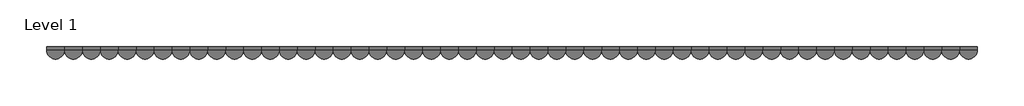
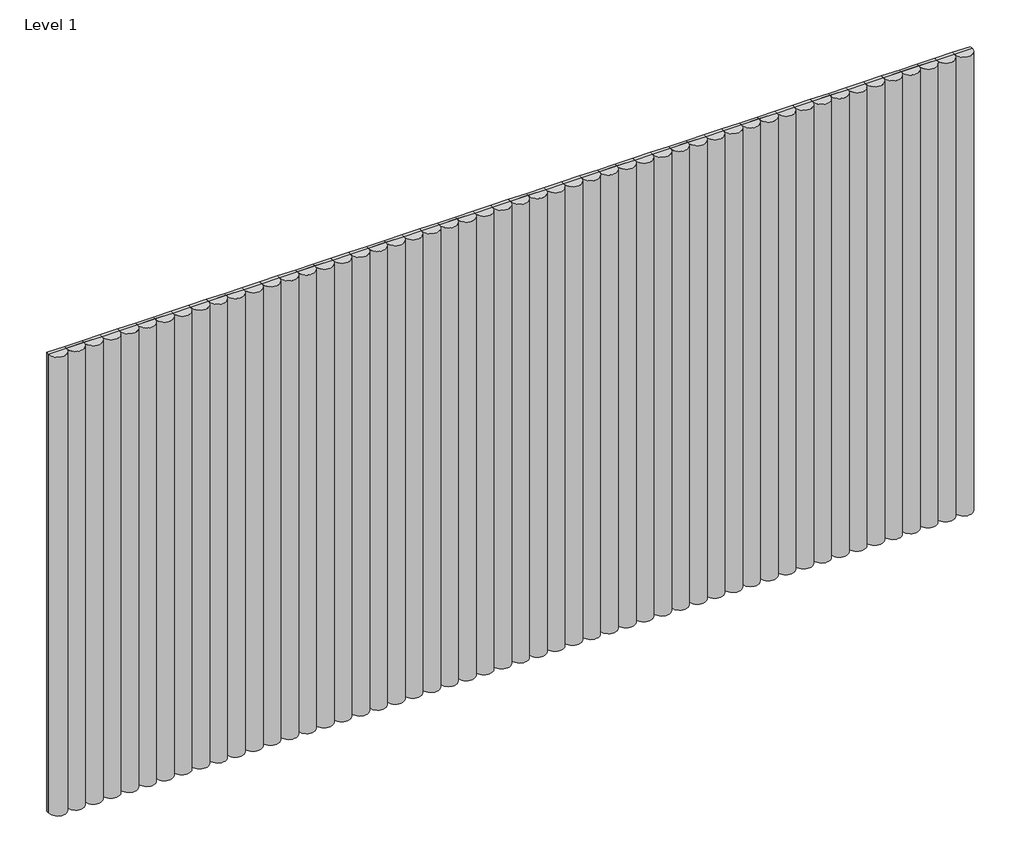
# One storey: 52 proxies.
"""IFC4 building model written with IfcOpenShell, lengths in millimetres."""

from ifc_helpers import new_model, si_unit, origin, place, context, project, spatial, transform, mapped, element, save
from components import specialty_equipment_105ff39a

model = new_model("IFC4")

# Units and contexts
model_context = context("Model", 3, world=origin())
ifc_project = project(units=[si_unit("LENGTHUNIT", "METRE", prefix="MILLI")], contexts=[model_context])

# Site, building, storey
site = spatial("IfcSite", under=ifc_project)
building = spatial("IfcBuilding", under=site)
storey = spatial("IfcBuildingStorey", under=building, Name="Level 1", Elevation=0.0)

# Proxies
placement = place(None, origin())
specialty_equipment_shape = specialty_equipment_105ff39a(model_context)
element("IfcBuildingElementProxy", 1, Name="Spinneybeck_ARO Plank 1 : A - 4 1/4 in (10.8 cm)", ObjectType="Spinneybeck_ARO Plank 1 : A - 4 1/4 in (10.8 cm)", at=placement, inside=storey, context=model_context, shape_type="MappedRepresentation", body=[
    mapped(specialty_equipment_shape, transform((-18900.5881386, 525.5178844, -8.8724664), x_axis=(1.0, 0.0, 0.0), y_axis=(0.0, 0.0, 1.0), z_axis=(0.0, -1.0, 0.0))),
])
element("IfcBuildingElementProxy", 2, Name="Spinneybeck_ARO Plank 1 : A - 4 1/4 in (10.8 cm)", ObjectType="Spinneybeck_ARO Plank 1 : A - 4 1/4 in (10.8 cm)", at=placement, inside=storey, context=model_context, shape_type="MappedRepresentation", body=[
    mapped(specialty_equipment_shape, transform((-18792.6381386, 525.5178844, -8.8724664), x_axis=(1.0, 0.0, 0.0), y_axis=(0.0, 0.0, 1.0), z_axis=(0.0, -1.0, 0.0))),
])
element("IfcBuildingElementProxy", 3, Name="Spinneybeck_ARO Plank 1 : A - 4 1/4 in (10.8 cm)", ObjectType="Spinneybeck_ARO Plank 1 : A - 4 1/4 in (10.8 cm)", at=placement, inside=storey, context=model_context, shape_type="MappedRepresentation", body=[
    mapped(specialty_equipment_shape, transform((-18684.6881386, 525.5178844, -8.8724664), x_axis=(1.0, 0.0, 0.0), y_axis=(0.0, 0.0, 1.0), z_axis=(0.0, -1.0, 0.0))),
])
element("IfcBuildingElementProxy", 4, Name="Spinneybeck_ARO Plank 1 : A - 4 1/4 in (10.8 cm)", ObjectType="Spinneybeck_ARO Plank 1 : A - 4 1/4 in (10.8 cm)", at=placement, inside=storey, context=model_context, shape_type="MappedRepresentation", body=[
    mapped(specialty_equipment_shape, transform((-18576.7381386, 525.5178844, -8.8724664), x_axis=(1.0, 0.0, 0.0), y_axis=(0.0, 0.0, 1.0), z_axis=(0.0, -1.0, 0.0))),
])
element("IfcBuildingElementProxy", 5, Name="Spinneybeck_ARO Plank 1 : A - 4 1/4 in (10.8 cm)", ObjectType="Spinneybeck_ARO Plank 1 : A - 4 1/4 in (10.8 cm)", at=placement, inside=storey, context=model_context, shape_type="MappedRepresentation", body=[
    mapped(specialty_equipment_shape, transform((-18468.7881386, 525.5178844, -8.8724664), x_axis=(1.0, 0.0, 0.0), y_axis=(0.0, 0.0, 1.0), z_axis=(0.0, -1.0, 0.0))),
])
element("IfcBuildingElementProxy", 6, Name="Spinneybeck_ARO Plank 1 : A - 4 1/4 in (10.8 cm)", ObjectType="Spinneybeck_ARO Plank 1 : A - 4 1/4 in (10.8 cm)", at=placement, inside=storey, context=model_context, shape_type="MappedRepresentation", body=[
    mapped(specialty_equipment_shape, transform((-18360.8381386, 525.5178844, -8.8724664), x_axis=(1.0, 0.0, 0.0), y_axis=(0.0, 0.0, 1.0), z_axis=(0.0, -1.0, 0.0))),
])
element("IfcBuildingElementProxy", 7, Name="Spinneybeck_ARO Plank 1 : A - 4 1/4 in (10.8 cm)", ObjectType="Spinneybeck_ARO Plank 1 : A - 4 1/4 in (10.8 cm)", at=placement, inside=storey, context=model_context, shape_type="MappedRepresentation", body=[
    mapped(specialty_equipment_shape, transform((-18252.8881386, 525.5178844, -8.8724664), x_axis=(1.0, 0.0, 0.0), y_axis=(0.0, 0.0, 1.0), z_axis=(0.0, -1.0, 0.0))),
])
element("IfcBuildingElementProxy", 8, Name="Spinneybeck_ARO Plank 1 : A - 4 1/4 in (10.8 cm)", ObjectType="Spinneybeck_ARO Plank 1 : A - 4 1/4 in (10.8 cm)", at=placement, inside=storey, context=model_context, shape_type="MappedRepresentation", body=[
    mapped(specialty_equipment_shape, transform((-18144.9381386, 525.5178844, -8.8724664), x_axis=(1.0, 0.0, 0.0), y_axis=(0.0, 0.0, 1.0), z_axis=(0.0, -1.0, 0.0))),
])
element("IfcBuildingElementProxy", 9, Name="Spinneybeck_ARO Plank 1 : A - 4 1/4 in (10.8 cm)", ObjectType="Spinneybeck_ARO Plank 1 : A - 4 1/4 in (10.8 cm)", at=placement, inside=storey, context=model_context, shape_type="MappedRepresentation", body=[
    mapped(specialty_equipment_shape, transform((-18036.9881386, 525.5178844, -8.8724664), x_axis=(1.0, 0.0, 0.0), y_axis=(0.0, 0.0, 1.0), z_axis=(0.0, -1.0, 0.0))),
])
element("IfcBuildingElementProxy", 10, Name="Spinneybeck_ARO Plank 1 : A - 4 1/4 in (10.8 cm)", ObjectType="Spinneybeck_ARO Plank 1 : A - 4 1/4 in (10.8 cm)", at=placement, inside=storey, context=model_context, shape_type="MappedRepresentation", body=[
    mapped(specialty_equipment_shape, transform((-17929.0381386, 525.5178844, -8.8724664), x_axis=(1.0, 0.0, 0.0), y_axis=(0.0, 0.0, 1.0), z_axis=(0.0, -1.0, 0.0))),
])
element("IfcBuildingElementProxy", 11, Name="Spinneybeck_ARO Plank 1 : A - 4 1/4 in (10.8 cm)", ObjectType="Spinneybeck_ARO Plank 1 : A - 4 1/4 in (10.8 cm)", at=placement, inside=storey, context=model_context, shape_type="MappedRepresentation", body=[
    mapped(specialty_equipment_shape, transform((-17821.0881386, 525.5178844, -8.8724664), x_axis=(1.0, 0.0, 0.0), y_axis=(0.0, 0.0, 1.0), z_axis=(0.0, -1.0, 0.0))),
])
element("IfcBuildingElementProxy", 12, Name="Spinneybeck_ARO Plank 1 : A - 4 1/4 in (10.8 cm)", ObjectType="Spinneybeck_ARO Plank 1 : A - 4 1/4 in (10.8 cm)", at=placement, inside=storey, context=model_context, shape_type="MappedRepresentation", body=[
    mapped(specialty_equipment_shape, transform((-17713.1381386, 525.5178844, -8.8724664), x_axis=(1.0, 0.0, 0.0), y_axis=(0.0, 0.0, 1.0), z_axis=(0.0, -1.0, 0.0))),
])
element("IfcBuildingElementProxy", 13, Name="Spinneybeck_ARO Plank 1 : A - 4 1/4 in (10.8 cm)", ObjectType="Spinneybeck_ARO Plank 1 : A - 4 1/4 in (10.8 cm)", at=placement, inside=storey, context=model_context, shape_type="MappedRepresentation", body=[
    mapped(specialty_equipment_shape, transform((-17605.1881386, 525.5178844, -8.8724664), x_axis=(1.0, 0.0, 0.0), y_axis=(0.0, 0.0, 1.0), z_axis=(0.0, -1.0, 0.0))),
])
element("IfcBuildingElementProxy", 14, Name="Spinneybeck_ARO Plank 1 : A - 4 1/4 in (10.8 cm)", ObjectType="Spinneybeck_ARO Plank 1 : A - 4 1/4 in (10.8 cm)", at=placement, inside=storey, context=model_context, shape_type="MappedRepresentation", body=[
    mapped(specialty_equipment_shape, transform((-17497.2381386, 525.5178844, -8.8724664), x_axis=(1.0, 0.0, 0.0), y_axis=(0.0, 0.0, 1.0), z_axis=(0.0, -1.0, 0.0))),
])
element("IfcBuildingElementProxy", 15, Name="Spinneybeck_ARO Plank 1 : A - 4 1/4 in (10.8 cm)", ObjectType="Spinneybeck_ARO Plank 1 : A - 4 1/4 in (10.8 cm)", at=placement, inside=storey, context=model_context, shape_type="MappedRepresentation", body=[
    mapped(specialty_equipment_shape, transform((-17389.2881386, 525.5178844, -8.8724664), x_axis=(1.0, 0.0, 0.0), y_axis=(0.0, 0.0, 1.0), z_axis=(0.0, -1.0, 0.0))),
])
element("IfcBuildingElementProxy", 16, Name="Spinneybeck_ARO Plank 1 : A - 4 1/4 in (10.8 cm)", ObjectType="Spinneybeck_ARO Plank 1 : A - 4 1/4 in (10.8 cm)", at=placement, inside=storey, context=model_context, shape_type="MappedRepresentation", body=[
    mapped(specialty_equipment_shape, transform((-17281.3381386, 525.5178844, -8.8724664), x_axis=(1.0, 0.0, 0.0), y_axis=(0.0, 0.0, 1.0), z_axis=(0.0, -1.0, 0.0))),
])
element("IfcBuildingElementProxy", 17, Name="Spinneybeck_ARO Plank 1 : A - 4 1/4 in (10.8 cm)", ObjectType="Spinneybeck_ARO Plank 1 : A - 4 1/4 in (10.8 cm)", at=placement, inside=storey, context=model_context, shape_type="MappedRepresentation", body=[
    mapped(specialty_equipment_shape, transform((-17173.3881386, 525.5178844, -8.8724664), x_axis=(1.0, 0.0, 0.0), y_axis=(0.0, 0.0, 1.0), z_axis=(0.0, -1.0, 0.0))),
])
element("IfcBuildingElementProxy", 18, Name="Spinneybeck_ARO Plank 1 : A - 4 1/4 in (10.8 cm)", ObjectType="Spinneybeck_ARO Plank 1 : A - 4 1/4 in (10.8 cm)", at=placement, inside=storey, context=model_context, shape_type="MappedRepresentation", body=[
    mapped(specialty_equipment_shape, transform((-17065.4381386, 525.5178844, -8.8724664), x_axis=(1.0, 0.0, 0.0), y_axis=(0.0, 0.0, 1.0), z_axis=(0.0, -1.0, 0.0))),
])
element("IfcBuildingElementProxy", 19, Name="Spinneybeck_ARO Plank 1 : A - 4 1/4 in (10.8 cm)", ObjectType="Spinneybeck_ARO Plank 1 : A - 4 1/4 in (10.8 cm)", at=placement, inside=storey, context=model_context, shape_type="MappedRepresentation", body=[
    mapped(specialty_equipment_shape, transform((-16957.4881386, 525.5178844, -8.8724664), x_axis=(1.0, 0.0, 0.0), y_axis=(0.0, 0.0, 1.0), z_axis=(0.0, -1.0, 0.0))),
])
element("IfcBuildingElementProxy", 20, Name="Spinneybeck_ARO Plank 1 : A - 4 1/4 in (10.8 cm)", ObjectType="Spinneybeck_ARO Plank 1 : A - 4 1/4 in (10.8 cm)", at=placement, inside=storey, context=model_context, shape_type="MappedRepresentation", body=[
    mapped(specialty_equipment_shape, transform((-16849.5381386, 525.5178844, -8.8724664), x_axis=(1.0, 0.0, 0.0), y_axis=(0.0, 0.0, 1.0), z_axis=(0.0, -1.0, 0.0))),
])
element("IfcBuildingElementProxy", 21, Name="Spinneybeck_ARO Plank 1 : A - 4 1/4 in (10.8 cm)", ObjectType="Spinneybeck_ARO Plank 1 : A - 4 1/4 in (10.8 cm)", at=placement, inside=storey, context=model_context, shape_type="MappedRepresentation", body=[
    mapped(specialty_equipment_shape, transform((-16741.5881386, 525.5178844, -8.8724664), x_axis=(1.0, 0.0, 0.0), y_axis=(0.0, 0.0, 1.0), z_axis=(0.0, -1.0, 0.0))),
])
element("IfcBuildingElementProxy", 22, Name="Spinneybeck_ARO Plank 1 : A - 4 1/4 in (10.8 cm)", ObjectType="Spinneybeck_ARO Plank 1 : A - 4 1/4 in (10.8 cm)", at=placement, inside=storey, context=model_context, shape_type="MappedRepresentation", body=[
    mapped(specialty_equipment_shape, transform((-16633.6381386, 525.5178844, -8.8724664), x_axis=(1.0, 0.0, 0.0), y_axis=(0.0, 0.0, 1.0), z_axis=(0.0, -1.0, 0.0))),
])
element("IfcBuildingElementProxy", 23, Name="Spinneybeck_ARO Plank 1 : A - 4 1/4 in (10.8 cm)", ObjectType="Spinneybeck_ARO Plank 1 : A - 4 1/4 in (10.8 cm)", at=placement, inside=storey, context=model_context, shape_type="MappedRepresentation", body=[
    mapped(specialty_equipment_shape, transform((-16525.6881386, 525.5178844, -8.8724664), x_axis=(1.0, 0.0, 0.0), y_axis=(0.0, 0.0, 1.0), z_axis=(0.0, -1.0, 0.0))),
])
element("IfcBuildingElementProxy", 24, Name="Spinneybeck_ARO Plank 1 : A - 4 1/4 in (10.8 cm)", ObjectType="Spinneybeck_ARO Plank 1 : A - 4 1/4 in (10.8 cm)", at=placement, inside=storey, context=model_context, shape_type="MappedRepresentation", body=[
    mapped(specialty_equipment_shape, transform((-16417.7381386, 525.5178844, -8.8724664), x_axis=(1.0, 0.0, 0.0), y_axis=(0.0, 0.0, 1.0), z_axis=(0.0, -1.0, 0.0))),
])
element("IfcBuildingElementProxy", 25, Name="Spinneybeck_ARO Plank 1 : A - 4 1/4 in (10.8 cm)", ObjectType="Spinneybeck_ARO Plank 1 : A - 4 1/4 in (10.8 cm)", at=placement, inside=storey, context=model_context, shape_type="MappedRepresentation", body=[
    mapped(specialty_equipment_shape, transform((-16309.7881386, 525.5178844, -8.8724664), x_axis=(1.0, 0.0, 0.0), y_axis=(0.0, 0.0, 1.0), z_axis=(0.0, -1.0, 0.0))),
])
element("IfcBuildingElementProxy", 26, Name="Spinneybeck_ARO Plank 1 : A - 4 1/4 in (10.8 cm)", ObjectType="Spinneybeck_ARO Plank 1 : A - 4 1/4 in (10.8 cm)", at=placement, inside=storey, context=model_context, shape_type="MappedRepresentation", body=[
    mapped(specialty_equipment_shape, transform((-16201.8381386, 525.5178844, -8.8724664), x_axis=(1.0, 0.0, 0.0), y_axis=(0.0, 0.0, 1.0), z_axis=(0.0, -1.0, 0.0))),
])
element("IfcBuildingElementProxy", 27, Name="Spinneybeck_ARO Plank 1 : A - 4 1/4 in (10.8 cm)", ObjectType="Spinneybeck_ARO Plank 1 : A - 4 1/4 in (10.8 cm)", at=placement, inside=storey, context=model_context, shape_type="MappedRepresentation", body=[
    mapped(specialty_equipment_shape, transform((-16093.8881386, 525.5178844, -8.8724664), x_axis=(1.0, 0.0, 0.0), y_axis=(0.0, 0.0, 1.0), z_axis=(0.0, -1.0, 0.0))),
])
element("IfcBuildingElementProxy", 28, Name="Spinneybeck_ARO Plank 1 : A - 4 1/4 in (10.8 cm)", ObjectType="Spinneybeck_ARO Plank 1 : A - 4 1/4 in (10.8 cm)", at=placement, inside=storey, context=model_context, shape_type="MappedRepresentation", body=[
    mapped(specialty_equipment_shape, transform((-15985.9381386, 525.5178844, -8.8724664), x_axis=(1.0, 0.0, 0.0), y_axis=(0.0, 0.0, 1.0), z_axis=(0.0, -1.0, 0.0))),
])
element("IfcBuildingElementProxy", 29, Name="Spinneybeck_ARO Plank 1 : A - 4 1/4 in (10.8 cm)", ObjectType="Spinneybeck_ARO Plank 1 : A - 4 1/4 in (10.8 cm)", at=placement, inside=storey, context=model_context, shape_type="MappedRepresentation", body=[
    mapped(specialty_equipment_shape, transform((-15877.9881386, 525.5178844, -8.8724664), x_axis=(1.0, 0.0, 0.0), y_axis=(0.0, 0.0, 1.0), z_axis=(0.0, -1.0, 0.0))),
])
element("IfcBuildingElementProxy", 30, Name="Spinneybeck_ARO Plank 1 : A - 4 1/4 in (10.8 cm)", ObjectType="Spinneybeck_ARO Plank 1 : A - 4 1/4 in (10.8 cm)", at=placement, inside=storey, context=model_context, shape_type="MappedRepresentation", body=[
    mapped(specialty_equipment_shape, transform((-15770.0381386, 525.5178844, -8.8724664), x_axis=(1.0, 0.0, 0.0), y_axis=(0.0, 0.0, 1.0), z_axis=(0.0, -1.0, 0.0))),
])
element("IfcBuildingElementProxy", 31, Name="Spinneybeck_ARO Plank 1 : A - 4 1/4 in (10.8 cm)", ObjectType="Spinneybeck_ARO Plank 1 : A - 4 1/4 in (10.8 cm)", at=placement, inside=storey, context=model_context, shape_type="MappedRepresentation", body=[
    mapped(specialty_equipment_shape, transform((-15662.0881386, 525.5178844, -8.8724664), x_axis=(1.0, 0.0, 0.0), y_axis=(0.0, 0.0, 1.0), z_axis=(0.0, -1.0, 0.0))),
])
element("IfcBuildingElementProxy", 32, Name="Spinneybeck_ARO Plank 1 : A - 4 1/4 in (10.8 cm)", ObjectType="Spinneybeck_ARO Plank 1 : A - 4 1/4 in (10.8 cm)", at=placement, inside=storey, context=model_context, shape_type="MappedRepresentation", body=[
    mapped(specialty_equipment_shape, transform((-15554.1381386, 525.5178844, -8.8724664), x_axis=(1.0, 0.0, 0.0), y_axis=(0.0, 0.0, 1.0), z_axis=(0.0, -1.0, 0.0))),
])
element("IfcBuildingElementProxy", 33, Name="Spinneybeck_ARO Plank 1 : A - 4 1/4 in (10.8 cm)", ObjectType="Spinneybeck_ARO Plank 1 : A - 4 1/4 in (10.8 cm)", at=placement, inside=storey, context=model_context, shape_type="MappedRepresentation", body=[
    mapped(specialty_equipment_shape, transform((-15446.1881386, 525.5178844, -8.8724664), x_axis=(1.0, 0.0, 0.0), y_axis=(0.0, 0.0, 1.0), z_axis=(0.0, -1.0, 0.0))),
])
element("IfcBuildingElementProxy", 34, Name="Spinneybeck_ARO Plank 1 : A - 4 1/4 in (10.8 cm)", ObjectType="Spinneybeck_ARO Plank 1 : A - 4 1/4 in (10.8 cm)", at=placement, inside=storey, context=model_context, shape_type="MappedRepresentation", body=[
    mapped(specialty_equipment_shape, transform((-15338.2381386, 525.5178844, -8.8724664), x_axis=(1.0, 0.0, 0.0), y_axis=(0.0, 0.0, 1.0), z_axis=(0.0, -1.0, 0.0))),
])
element("IfcBuildingElementProxy", 35, Name="Spinneybeck_ARO Plank 1 : A - 4 1/4 in (10.8 cm)", ObjectType="Spinneybeck_ARO Plank 1 : A - 4 1/4 in (10.8 cm)", at=placement, inside=storey, context=model_context, shape_type="MappedRepresentation", body=[
    mapped(specialty_equipment_shape, transform((-15230.2881386, 525.5178844, -8.8724664), x_axis=(1.0, 0.0, 0.0), y_axis=(0.0, 0.0, 1.0), z_axis=(0.0, -1.0, 0.0))),
])
element("IfcBuildingElementProxy", 36, Name="Spinneybeck_ARO Plank 1 : A - 4 1/4 in (10.8 cm)", ObjectType="Spinneybeck_ARO Plank 1 : A - 4 1/4 in (10.8 cm)", at=placement, inside=storey, context=model_context, shape_type="MappedRepresentation", body=[
    mapped(specialty_equipment_shape, transform((-15122.3381386, 525.5178844, -8.8724664), x_axis=(1.0, 0.0, 0.0), y_axis=(0.0, 0.0, 1.0), z_axis=(0.0, -1.0, 0.0))),
])
element("IfcBuildingElementProxy", 37, Name="Spinneybeck_ARO Plank 1 : A - 4 1/4 in (10.8 cm)", ObjectType="Spinneybeck_ARO Plank 1 : A - 4 1/4 in (10.8 cm)", at=placement, inside=storey, context=model_context, shape_type="MappedRepresentation", body=[
    mapped(specialty_equipment_shape, transform((-15014.3881386, 525.5178844, -8.8724664), x_axis=(1.0, 0.0, 0.0), y_axis=(0.0, 0.0, 1.0), z_axis=(0.0, -1.0, 0.0))),
])
element("IfcBuildingElementProxy", 38, Name="Spinneybeck_ARO Plank 1 : A - 4 1/4 in (10.8 cm)", ObjectType="Spinneybeck_ARO Plank 1 : A - 4 1/4 in (10.8 cm)", at=placement, inside=storey, context=model_context, shape_type="MappedRepresentation", body=[
    mapped(specialty_equipment_shape, transform((-14906.4381386, 525.5178844, -8.8724664), x_axis=(1.0, 0.0, 0.0), y_axis=(0.0, 0.0, 1.0), z_axis=(0.0, -1.0, 0.0))),
])
element("IfcBuildingElementProxy", 39, Name="Spinneybeck_ARO Plank 1 : A - 4 1/4 in (10.8 cm)", ObjectType="Spinneybeck_ARO Plank 1 : A - 4 1/4 in (10.8 cm)", at=placement, inside=storey, context=model_context, shape_type="MappedRepresentation", body=[
    mapped(specialty_equipment_shape, transform((-14798.4881386, 525.5178844, -8.8724664), x_axis=(1.0, 0.0, 0.0), y_axis=(0.0, 0.0, 1.0), z_axis=(0.0, -1.0, 0.0))),
])
element("IfcBuildingElementProxy", 40, Name="Spinneybeck_ARO Plank 1 : A - 4 1/4 in (10.8 cm)", ObjectType="Spinneybeck_ARO Plank 1 : A - 4 1/4 in (10.8 cm)", at=placement, inside=storey, context=model_context, shape_type="MappedRepresentation", body=[
    mapped(specialty_equipment_shape, transform((-14690.5381386, 525.5178844, -8.8724664), x_axis=(1.0, 0.0, 0.0), y_axis=(0.0, 0.0, 1.0), z_axis=(0.0, -1.0, 0.0))),
])
element("IfcBuildingElementProxy", 41, Name="Spinneybeck_ARO Plank 1 : A - 4 1/4 in (10.8 cm)", ObjectType="Spinneybeck_ARO Plank 1 : A - 4 1/4 in (10.8 cm)", at=placement, inside=storey, context=model_context, shape_type="MappedRepresentation", body=[
    mapped(specialty_equipment_shape, transform((-14582.5881386, 525.5178844, -8.8724664), x_axis=(1.0, 0.0, 0.0), y_axis=(0.0, 0.0, 1.0), z_axis=(0.0, -1.0, 0.0))),
])
element("IfcBuildingElementProxy", 42, Name="Spinneybeck_ARO Plank 1 : A - 4 1/4 in (10.8 cm)", ObjectType="Spinneybeck_ARO Plank 1 : A - 4 1/4 in (10.8 cm)", at=placement, inside=storey, context=model_context, shape_type="MappedRepresentation", body=[
    mapped(specialty_equipment_shape, transform((-14474.6381386, 525.5178844, -8.8724664), x_axis=(1.0, 0.0, 0.0), y_axis=(0.0, 0.0, 1.0), z_axis=(0.0, -1.0, 0.0))),
])
element("IfcBuildingElementProxy", 43, Name="Spinneybeck_ARO Plank 1 : A - 4 1/4 in (10.8 cm)", ObjectType="Spinneybeck_ARO Plank 1 : A - 4 1/4 in (10.8 cm)", at=placement, inside=storey, context=model_context, shape_type="MappedRepresentation", body=[
    mapped(specialty_equipment_shape, transform((-14366.6881386, 525.5178844, -8.8724664), x_axis=(1.0, 0.0, 0.0), y_axis=(0.0, 0.0, 1.0), z_axis=(0.0, -1.0, 0.0))),
])
element("IfcBuildingElementProxy", 44, Name="Spinneybeck_ARO Plank 1 : A - 4 1/4 in (10.8 cm)", ObjectType="Spinneybeck_ARO Plank 1 : A - 4 1/4 in (10.8 cm)", at=placement, inside=storey, context=model_context, shape_type="MappedRepresentation", body=[
    mapped(specialty_equipment_shape, transform((-14258.7381386, 525.5178844, -8.8724664), x_axis=(1.0, 0.0, 0.0), y_axis=(0.0, 0.0, 1.0), z_axis=(0.0, -1.0, 0.0))),
])
element("IfcBuildingElementProxy", 45, Name="Spinneybeck_ARO Plank 1 : A - 4 1/4 in (10.8 cm)", ObjectType="Spinneybeck_ARO Plank 1 : A - 4 1/4 in (10.8 cm)", at=placement, inside=storey, context=model_context, shape_type="MappedRepresentation", body=[
    mapped(specialty_equipment_shape, transform((-14150.7881386, 525.5178844, -8.8724664), x_axis=(1.0, 0.0, 0.0), y_axis=(0.0, 0.0, 1.0), z_axis=(0.0, -1.0, 0.0))),
])
element("IfcBuildingElementProxy", 46, Name="Spinneybeck_ARO Plank 1 : A - 4 1/4 in (10.8 cm)", ObjectType="Spinneybeck_ARO Plank 1 : A - 4 1/4 in (10.8 cm)", at=placement, inside=storey, context=model_context, shape_type="MappedRepresentation", body=[
    mapped(specialty_equipment_shape, transform((-14042.8381386, 525.5178844, -8.8724664), x_axis=(1.0, 0.0, 0.0), y_axis=(0.0, 0.0, 1.0), z_axis=(0.0, -1.0, 0.0))),
])
element("IfcBuildingElementProxy", 47, Name="Spinneybeck_ARO Plank 1 : A - 4 1/4 in (10.8 cm)", ObjectType="Spinneybeck_ARO Plank 1 : A - 4 1/4 in (10.8 cm)", at=placement, inside=storey, context=model_context, shape_type="MappedRepresentation", body=[
    mapped(specialty_equipment_shape, transform((-13934.8881386, 525.5178844, -8.8724664), x_axis=(1.0, 0.0, 0.0), y_axis=(0.0, 0.0, 1.0), z_axis=(0.0, -1.0, 0.0))),
])
element("IfcBuildingElementProxy", 48, Name="Spinneybeck_ARO Plank 1 : A - 4 1/4 in (10.8 cm)", ObjectType="Spinneybeck_ARO Plank 1 : A - 4 1/4 in (10.8 cm)", at=placement, inside=storey, context=model_context, shape_type="MappedRepresentation", body=[
    mapped(specialty_equipment_shape, transform((-13826.9381386, 525.5178844, -8.8724664), x_axis=(1.0, 0.0, 0.0), y_axis=(0.0, 0.0, 1.0), z_axis=(0.0, -1.0, 0.0))),
])
element("IfcBuildingElementProxy", 49, Name="Spinneybeck_ARO Plank 1 : A - 4 1/4 in (10.8 cm)", ObjectType="Spinneybeck_ARO Plank 1 : A - 4 1/4 in (10.8 cm)", at=placement, inside=storey, context=model_context, shape_type="MappedRepresentation", body=[
    mapped(specialty_equipment_shape, transform((-13718.9881386, 525.5178844, -8.8724664), x_axis=(1.0, 0.0, 0.0), y_axis=(0.0, 0.0, 1.0), z_axis=(0.0, -1.0, 0.0))),
])
element("IfcBuildingElementProxy", 50, Name="Spinneybeck_ARO Plank 1 : A - 4 1/4 in (10.8 cm)", ObjectType="Spinneybeck_ARO Plank 1 : A - 4 1/4 in (10.8 cm)", at=placement, inside=storey, context=model_context, shape_type="MappedRepresentation", body=[
    mapped(specialty_equipment_shape, transform((-13611.0381386, 525.5178844, -8.8724664), x_axis=(1.0, 0.0, 0.0), y_axis=(0.0, 0.0, 1.0), z_axis=(0.0, -1.0, 0.0))),
])
element("IfcBuildingElementProxy", 51, Name="Spinneybeck_ARO Plank 1 : A - 4 1/4 in (10.8 cm)", ObjectType="Spinneybeck_ARO Plank 1 : A - 4 1/4 in (10.8 cm)", at=placement, inside=storey, context=model_context, shape_type="MappedRepresentation", body=[
    mapped(specialty_equipment_shape, transform((-13503.0881386, 525.5178844, -8.8724664), x_axis=(1.0, 0.0, 0.0), y_axis=(0.0, 0.0, 1.0), z_axis=(0.0, -1.0, 0.0))),
])
element("IfcBuildingElementProxy", 52, Name="Spinneybeck_ARO Plank 1 : A - 4 1/4 in (10.8 cm)", ObjectType="Spinneybeck_ARO Plank 1 : A - 4 1/4 in (10.8 cm)", at=placement, inside=storey, context=model_context, shape_type="MappedRepresentation", body=[
    mapped(specialty_equipment_shape, transform((-13395.1381386, 525.5178844, -8.8724664), x_axis=(1.0, 0.0, 0.0), y_axis=(0.0, 0.0, 1.0), z_axis=(0.0, -1.0, 0.0))),
])

save(model, "model.ifc")
